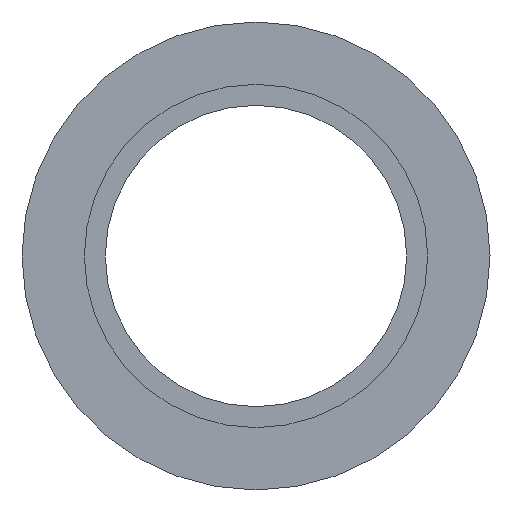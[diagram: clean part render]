
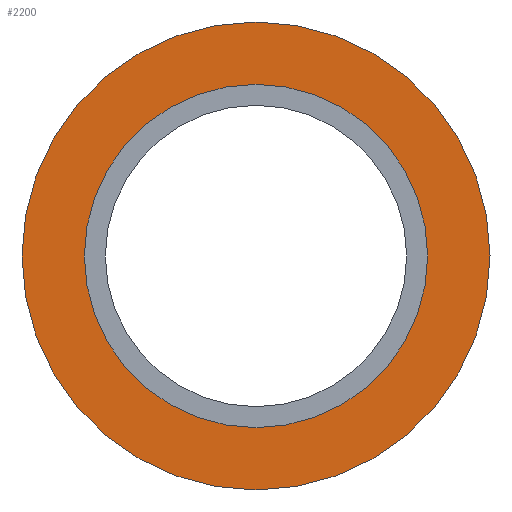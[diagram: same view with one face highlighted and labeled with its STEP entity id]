
A CAD part, left-side view. The second image highlights one B-rep face of the part: STEP entity #2200.
In plain terms, the highlighted planar face has unit normal (-1, 0, 0).
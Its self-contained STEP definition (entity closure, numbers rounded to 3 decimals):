
#1850=CARTESIAN_POINT('',(42.975,57.963,0.))
;
#1860=DIRECTION('',(-1.,0.,0.));
#1870=DIRECTION('',(0.,-1.,0.));
#1880=AXIS2_PLACEMENT_3D('',#1850,#1860,#1870);
#1890=PLANE('',#1880);
#1900=CARTESIAN_POINT('',(42.975,39.288,0.));
#1910=DIRECTION('',(-1.,0.,0.));
#1920=DIRECTION('',(0.,1.,0.));
#1930=AXIS2_PLACEMENT_3D('',#1900,#1910,#1920);
#1940=CIRCLE('',#1930,13.9);
#1950=CARTESIAN_POINT('',(42.975,25.388,0.)
);
#1960=VERTEX_POINT('',#1950);
#1970=CARTESIAN_POINT('',(42.975,53.188,0.))
;
#1980=VERTEX_POINT('',#1970);
#1990=EDGE_CURVE('',#1960,#1980,#1940,.T.);
#2000=ORIENTED_EDGE('',*,*,#1990,.F.);
#2010=EDGE_CURVE('',#1980,#1960,#1940,.T.);
#2020=ORIENTED_EDGE('',*,*,#2010,.F.);
#2030=EDGE_LOOP('',(#2020,#2000));
#2040=FACE_BOUND('',#2030,.T.);
#2050=CARTESIAN_POINT('',(42.975,39.288,0.));
#2060=DIRECTION('',(1.,0.,0.));
#2070=DIRECTION('',(0.,1.,0.));
#2080=AXIS2_PLACEMENT_3D('',#2050,#2060,#2070);
#2090=CIRCLE('',#2080,18.95);
#2100=CARTESIAN_POINT('',(42.975,58.238,0.))
;
#2110=VERTEX_POINT('',#2100);
#2120=CARTESIAN_POINT('',(42.975,20.338,0.)
);
#2130=VERTEX_POINT('',#2120);
#2140=EDGE_CURVE('',#2110,#2130,#2090,.T.);
#2150=ORIENTED_EDGE('',*,*,#2140,.F.);
#2160=EDGE_CURVE('',#2130,#2110,#2090,.T.);
#2170=ORIENTED_EDGE('',*,*,#2160,.F.);
#2180=EDGE_LOOP('',(#2170,#2150));
#2190=FACE_OUTER_BOUND('',#2180,.T.);
#2200=ADVANCED_FACE('',(#2040,#2190),#1890,.T.);
